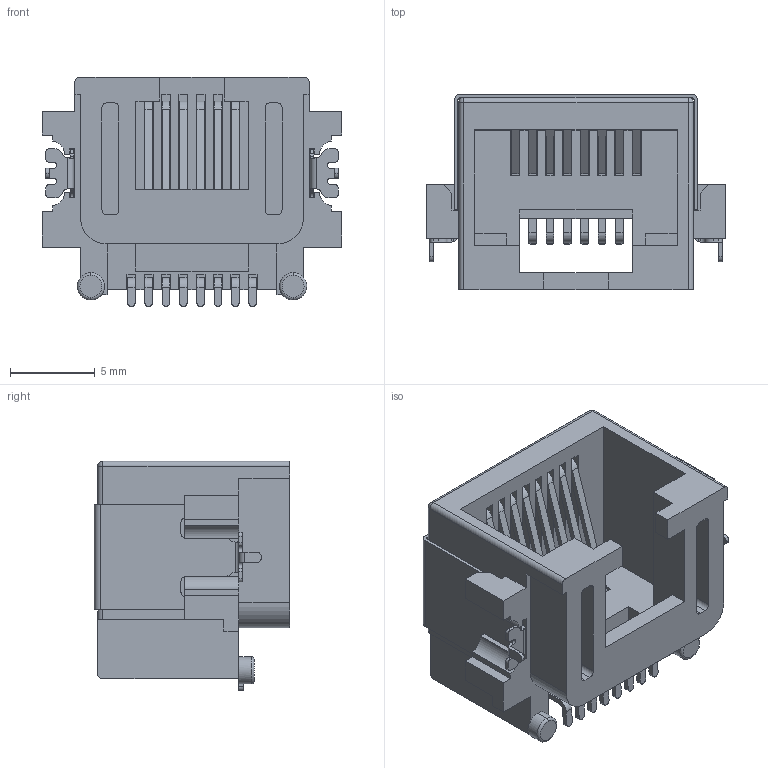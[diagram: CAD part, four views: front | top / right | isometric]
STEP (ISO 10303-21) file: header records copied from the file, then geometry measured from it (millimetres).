
FILE_DESCRIPTION (( 'STEP AP214' ), '1' );
FILE_NAME ('HC-RJ45-055-1-7 (沉板 腰带式不锈钢吸塑 半包-HCTL)（英文）.STEP', '2025-01-03T01:52:34', ( '' ), ( '' ), 'SwSTEP 2.0', 'SolidWorks 2022', '' );
FILE_SCHEMA (( 'AUTOMOTIVE_DESIGN' ));
Length unit declared in the file: millimetre
Products named in the file (1): HC-RJ45-055-1-7 (沉板 腰带式不锈钢吸塑 半包-HCTL)（英文）
Bounding box: 17.6 x 11.5 x 13.5 mm (x, y, z)
Volume: 811.7 mm3; surface area: 2217.9 mm2
Topology: 1 solids, 1 shells, 537 faces, 1605 edges, 1044 vertices
Faces by surface type: plane 378, cylinder 153, torus 4, sphere 2
Entity records: 17969 total; most frequent: CARTESIAN_POINT 3209, ORIENTED_EDGE 3206, DIRECTION 2989, EDGE_CURVE 1603, VECTOR 1277, LINE 1277, VERTEX_POINT 1044, AXIS2_PLACEMENT_3D 856
